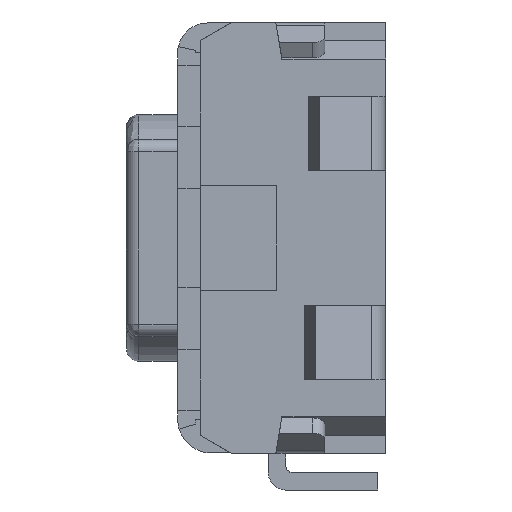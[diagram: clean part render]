
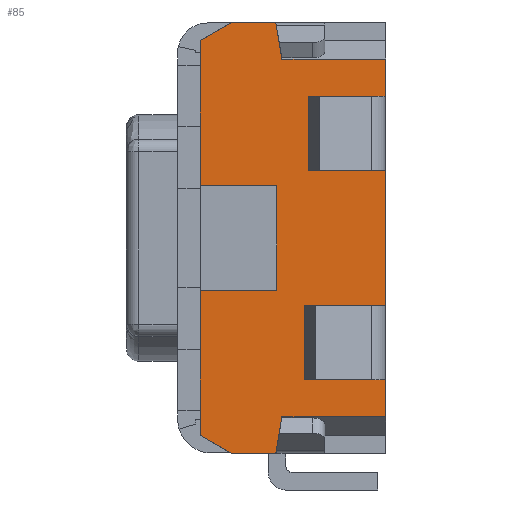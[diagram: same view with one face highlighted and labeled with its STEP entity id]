
A CAD part, left-side view. The second image highlights one B-rep face of the part: STEP entity #85.
In plain terms, the highlighted planar face has unit normal (-1, 0, 0).
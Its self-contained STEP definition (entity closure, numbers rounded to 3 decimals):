
#85=ADVANCED_FACE('NONE',(#396,#397),#398,.F.);
#396=FACE_OUTER_BOUND('',#942,.T.);
#397=FACE_BOUND('',#943,.T.);
#398=PLANE('',#944);
#942=EDGE_LOOP('',(#1863,#1864,#1865,#1866,#1867,#1868,#1869,#1870,#1871,#1872,#1873,#1874,#1875,#1876,#1877,#1878,#1879,#1880));
#943=EDGE_LOOP('',(#1881,#1882,#1883,#1884));
#944=AXIS2_PLACEMENT_3D('',#1885,#1886,#1887);
#1863=ORIENTED_EDGE('',*,*,#4010,.F.);
#1864=ORIENTED_EDGE('',*,*,#4011,.F.);
#1865=ORIENTED_EDGE('',*,*,#4012,.F.);
#1866=ORIENTED_EDGE('',*,*,#4013,.F.);
#1867=ORIENTED_EDGE('',*,*,#4014,.F.);
#1868=ORIENTED_EDGE('',*,*,#4015,.F.);
#1869=ORIENTED_EDGE('',*,*,#4016,.F.);
#1870=ORIENTED_EDGE('',*,*,#4017,.F.);
#1871=ORIENTED_EDGE('',*,*,#4018,.F.);
#1872=ORIENTED_EDGE('',*,*,#4019,.F.);
#1873=ORIENTED_EDGE('',*,*,#4020,.T.);
#1874=ORIENTED_EDGE('',*,*,#4021,.T.);
#1875=ORIENTED_EDGE('',*,*,#3961,.F.);
#1876=ORIENTED_EDGE('',*,*,#4022,.T.);
#1877=ORIENTED_EDGE('',*,*,#4023,.T.);
#1878=ORIENTED_EDGE('',*,*,#4024,.F.);
#1879=ORIENTED_EDGE('',*,*,#4025,.F.);
#1880=ORIENTED_EDGE('',*,*,#4026,.F.);
#1881=ORIENTED_EDGE('',*,*,#3948,.F.);
#1882=ORIENTED_EDGE('',*,*,#3947,.F.);
#1883=ORIENTED_EDGE('',*,*,#3944,.F.);
#1884=ORIENTED_EDGE('',*,*,#3950,.F.);
#1885=CARTESIAN_POINT('',(-2.35,1.5,-1.75));
#1886=DIRECTION('',(1.0,0.0,-0.0));
#1887=DIRECTION('',(-0.0,1.0,0.0));
#3944=EDGE_CURVE('NONE',#4756,#4758,#4759,.T.);
#3947=EDGE_CURVE('NONE',#4758,#4761,#4763,.T.);
#3948=EDGE_CURVE('NONE',#4761,#4764,#4765,.T.);
#3950=EDGE_CURVE('NONE',#4764,#4756,#4767,.T.);
#3961=EDGE_CURVE('NONE',#4786,#4787,#4788,.T.);
#4010=EDGE_CURVE('NONE',#4865,#4866,#4867,.T.);
#4011=EDGE_CURVE('NONE',#4868,#4865,#4869,.T.);
#4012=EDGE_CURVE('NONE',#4870,#4868,#4871,.T.);
#4013=EDGE_CURVE('NONE',#4872,#4870,#4873,.T.);
#4014=EDGE_CURVE('NONE',#4874,#4872,#4875,.T.);
#4015=EDGE_CURVE('NONE',#4876,#4874,#4877,.T.);
#4016=EDGE_CURVE('NONE',#4878,#4876,#4879,.T.);
#4017=EDGE_CURVE('NONE',#4880,#4878,#4881,.T.);
#4018=EDGE_CURVE('NONE',#4882,#4880,#4883,.T.);
#4019=EDGE_CURVE('NONE',#4884,#4882,#4885,.T.);
#4020=EDGE_CURVE('NONE',#4884,#4886,#4887,.T.);
#4021=EDGE_CURVE('NONE',#4886,#4787,#4888,.T.);
#4022=EDGE_CURVE('NONE',#4786,#4889,#4890,.T.);
#4023=EDGE_CURVE('NONE',#4889,#4891,#4892,.T.);
#4024=EDGE_CURVE('NONE',#4893,#4891,#4894,.T.);
#4025=EDGE_CURVE('NONE',#4895,#4893,#4896,.T.);
#4026=EDGE_CURVE('NONE',#4866,#4895,#4897,.T.);
#4756=VERTEX_POINT('NONE',#6070);
#4758=VERTEX_POINT('NONE',#6072);
#4759=LINE('',#6073,#6074);
#4761=VERTEX_POINT('NONE',#6076);
#4763=LINE('',#6079,#6080);
#4764=VERTEX_POINT('NONE',#6081);
#4765=LINE('',#6082,#6083);
#4767=LINE('',#6086,#6087);
#4786=VERTEX_POINT('NONE',#6116);
#4787=VERTEX_POINT('NONE',#6117);
#4788=LINE('',#6118,#6119);
#4865=VERTEX_POINT('NONE',#6244);
#4866=VERTEX_POINT('NONE',#6245);
#4867=LINE('',#6246,#6247);
#4868=VERTEX_POINT('NONE',#6248);
#4869=LINE('',#6249,#6250);
#4870=VERTEX_POINT('NONE',#6251);
#4871=LINE('',#6252,#6253);
#4872=VERTEX_POINT('NONE',#6254);
#4873=LINE('',#6255,#6256);
#4874=VERTEX_POINT('NONE',#6257);
#4875=LINE('',#6258,#6259);
#4876=VERTEX_POINT('NONE',#6260);
#4877=LINE('',#6261,#6262);
#4878=VERTEX_POINT('NONE',#6263);
#4879=LINE('',#6264,#6265);
#4880=VERTEX_POINT('NONE',#6266);
#4881=LINE('',#6267,#6268);
#4882=VERTEX_POINT('NONE',#6269);
#4883=LINE('',#6270,#6271);
#4884=VERTEX_POINT('NONE',#6272);
#4885=LINE('',#6273,#6274);
#4886=VERTEX_POINT('NONE',#6275);
#4887=LINE('',#6276,#6277);
#4888=LINE('',#6278,#6279);
#4889=VERTEX_POINT('NONE',#6280);
#4890=LINE('',#6281,#6282);
#4891=VERTEX_POINT('NONE',#6283);
#4892=LINE('',#6284,#6285);
#4893=VERTEX_POINT('NONE',#6286);
#4894=LINE('',#6287,#6288);
#4895=VERTEX_POINT('NONE',#6289);
#4896=LINE('',#6290,#6291);
#4897=LINE('',#6292,#6293);
#6070=CARTESIAN_POINT('',(-2.35,0.001,-1.15));
#6072=CARTESIAN_POINT('',(-2.35,0.001,-0.55));
#6073=CARTESIAN_POINT('',(-2.35,0.001,0.0));
#6074=VECTOR('',#8030,1000.0);
#6076=CARTESIAN_POINT('',(-2.35,0.232,-0.55));
#6079=CARTESIAN_POINT('',(-2.35,0.75,-0.55));
#6080=VECTOR('',#8035,1000.0);
#6081=CARTESIAN_POINT('',(-2.35,0.232,-1.15));
#6082=CARTESIAN_POINT('',(-2.35,0.232,0.0));
#6083=VECTOR('',#8036,1000.0);
#6086=CARTESIAN_POINT('',(-2.35,0.75,-1.15));
#6087=VECTOR('',#8038,1000.0);
#6116=CARTESIAN_POINT('',(-2.35,0.2,1.15));
#6117=CARTESIAN_POINT('',(-2.35,0.2,0.55));
#6118=CARTESIAN_POINT('',(-2.35,0.2,0.0));
#6119=VECTOR('',#8049,1000.0);
#6244=CARTESIAN_POINT('',(-2.35,1.5,1.6));
#6245=CARTESIAN_POINT('',(-2.35,1.24,1.75));
#6246=CARTESIAN_POINT('',(-2.35,1.5,1.6));
#6247=VECTOR('',#8098,1000.0);
#6248=CARTESIAN_POINT('',(-2.35,1.5,0.425));
#6249=CARTESIAN_POINT('',(-2.35,1.5,0.0));
#6250=VECTOR('',#8099,1000.0);
#6251=CARTESIAN_POINT('',(-2.35,0.88,0.425));
#6252=CARTESIAN_POINT('',(-2.35,0.75,0.425));
#6253=VECTOR('',#8100,1000.0);
#6254=CARTESIAN_POINT('',(-2.35,0.88,-0.425));
#6255=CARTESIAN_POINT('',(-2.35,0.88,0.0));
#6256=VECTOR('',#8101,1000.0);
#6257=CARTESIAN_POINT('',(-2.35,1.5,-0.425));
#6258=CARTESIAN_POINT('',(-2.35,0.75,-0.425));
#6259=VECTOR('',#8102,1000.0);
#6260=CARTESIAN_POINT('',(-2.35,1.5,-1.6));
#6261=CARTESIAN_POINT('',(-2.35,1.5,0.0));
#6262=VECTOR('',#8103,1000.0);
#6263=CARTESIAN_POINT('',(-2.35,1.24,-1.75));
#6264=CARTESIAN_POINT('',(-2.35,1.5,-1.6));
#6265=VECTOR('',#8104,1000.0);
#6266=CARTESIAN_POINT('',(-2.35,0.89,-1.75));
#6267=CARTESIAN_POINT('',(-2.35,0.75,-1.75));
#6268=VECTOR('',#8105,1000.0);
#6269=CARTESIAN_POINT('',(-2.35,0.84,-1.45));
#6270=CARTESIAN_POINT('',(-2.35,0.84,-1.45));
#6271=VECTOR('',#8106,1000.0);
#6272=CARTESIAN_POINT('',(-2.35,0.0,-1.45));
#6273=CARTESIAN_POINT('',(-2.35,0.75,-1.45));
#6274=VECTOR('',#8107,1000.0);
#6275=CARTESIAN_POINT('',(-2.35,0.0,0.55));
#6276=CARTESIAN_POINT('',(-2.35,0.0,0.0));
#6277=VECTOR('',#8108,1000.0);
#6278=CARTESIAN_POINT('',(-2.35,1.5,0.55));
#6279=VECTOR('',#8109,1000.0);
#6280=CARTESIAN_POINT('',(-2.35,0.0,1.15));
#6281=CARTESIAN_POINT('',(-2.35,1.5,1.15));
#6282=VECTOR('',#8110,1000.0);
#6283=CARTESIAN_POINT('',(-2.35,0.0,1.45));
#6284=CARTESIAN_POINT('',(-2.35,0.0,0.0));
#6285=VECTOR('',#8111,1000.0);
#6286=CARTESIAN_POINT('',(-2.35,0.84,1.45));
#6287=CARTESIAN_POINT('',(-2.35,0.75,1.45));
#6288=VECTOR('',#8112,1000.0);
#6289=CARTESIAN_POINT('',(-2.35,0.89,1.75));
#6290=CARTESIAN_POINT('',(-2.35,0.89,1.75));
#6291=VECTOR('',#8113,1000.0);
#6292=CARTESIAN_POINT('',(-2.35,0.75,1.75));
#6293=VECTOR('',#8114,1000.0);
#8030=DIRECTION('',(0.0,0.0,1.0));
#8035=DIRECTION('',(-0.0,1.0,-0.0));
#8036=DIRECTION('',(-0.0,-0.0,-1.0));
#8038=DIRECTION('',(0.0,-1.0,0.0));
#8049=DIRECTION('',(-0.0,-0.0,-1.0));
#8098=DIRECTION('',(0.0,-0.866,0.5));
#8099=DIRECTION('',(0.0,0.0,1.0));
#8100=DIRECTION('',(-0.0,1.0,-0.0));
#8101=DIRECTION('',(0.0,0.0,1.0));
#8102=DIRECTION('',(0.0,-1.0,0.0));
#8103=DIRECTION('',(0.0,0.0,1.0));
#8104=DIRECTION('',(-0.0,0.866,0.5));
#8105=DIRECTION('',(-0.0,1.0,-0.0));
#8106=DIRECTION('',(0.0,0.164,-0.986));
#8107=DIRECTION('',(-0.0,1.0,-0.0));
#8108=DIRECTION('',(0.0,0.0,1.0));
#8109=DIRECTION('',(-0.0,1.0,-0.0));
#8110=DIRECTION('',(0.0,-1.0,0.0));
#8111=DIRECTION('',(0.0,0.0,1.0));
#8112=DIRECTION('',(0.0,-1.0,0.0));
#8113=DIRECTION('',(0.0,-0.164,-0.986));
#8114=DIRECTION('',(0.0,-1.0,0.0));
